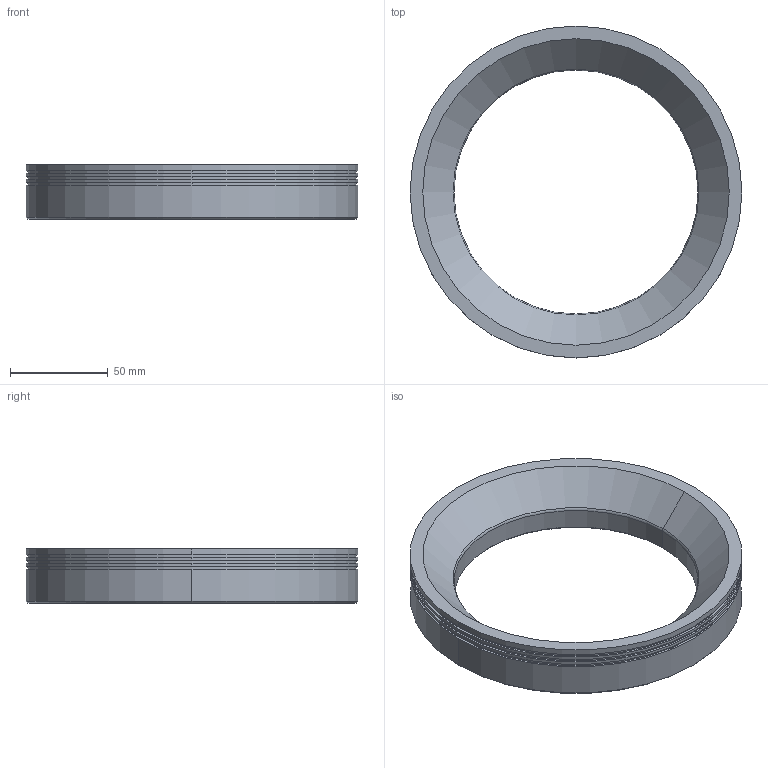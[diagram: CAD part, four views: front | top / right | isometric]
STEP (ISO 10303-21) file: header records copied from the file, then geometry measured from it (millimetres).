
FILE_DESCRIPTION((''),'2;1');
FILE_NAME('DRL7030','2020-03-28T',('ASUS'),(''),'PRO/ENGINEER BY PARAMETRIC TECHNOLOGY CORPORATION, 2008380','PRO/ENGINEER BY PARAMETRIC TECHNOLOGY CORPORATION, 2008380','');
FILE_SCHEMA(('CONFIG_CONTROL_DESIGN'));
Length unit declared in the file: millimetre
Products named in the file (1): DRL7030
Bounding box: 170 x 170 x 28 mm (x, y, z)
Volume: 234328.5 mm3; surface area: 46479.5 mm2
Topology: 1 solids, 5 shells, 68 faces, 152 edges, 92 vertices
Faces by surface type: cylinder 32, cone 22, plane 12, torus 2
Entity records: 1901 total; most frequent: DIRECTION 372, CARTESIAN_POINT 305, ORIENTED_EDGE 272, AXIS2_PLACEMENT_3D 159, EDGE_CURVE 144, VERTEX_POINT 92, CIRCLE 90, EDGE_LOOP 84
